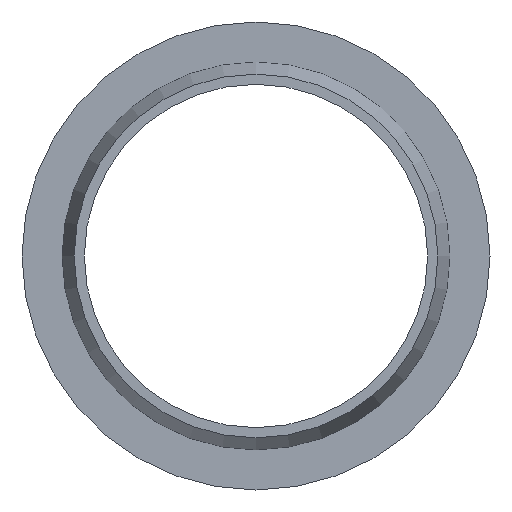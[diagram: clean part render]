
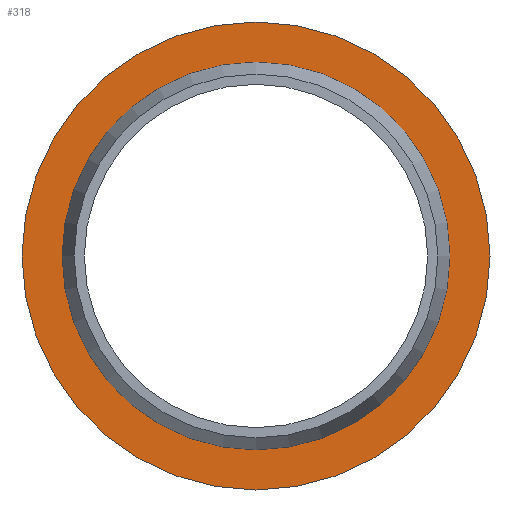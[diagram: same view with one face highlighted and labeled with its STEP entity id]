
A CAD part, left-side view. The second image highlights one B-rep face of the part: STEP entity #318.
In plain terms, the highlighted planar face has unit normal (-1, 0, 0).
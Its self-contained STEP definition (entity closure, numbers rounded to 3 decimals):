
#17 = CARTESIAN_POINT ( 'NONE',  ( 2.5, 0., -15.25 ) ) ;
#18 = AXIS2_PLACEMENT_3D ( 'NONE', #19, #23, #24 ) ;
#19 = CARTESIAN_POINT ( 'NONE',  ( 2.5, 0., 0. ) ) ;
#23 = DIRECTION ( 'NONE',  ( -1., 0., 0. ) ) ;
#24 = DIRECTION ( 'NONE',  ( 0., 0., 1. ) ) ;
#28 = CIRCLE ( 'NONE', #18, 15.25 ) ;
#62 = CARTESIAN_POINT ( 'NONE',  ( 2.5, 0., 0. ) ) ;
#63 = AXIS2_PLACEMENT_3D ( 'NONE', #62, #67, #73 ) ;
#67 = DIRECTION ( 'NONE',  ( -1., 0., 0. ) ) ;
#68 = CIRCLE ( 'NONE', #63, 18.4 ) ;
#73 = DIRECTION ( 'NONE',  ( 0., 0., 1. ) ) ;
#111 = CARTESIAN_POINT ( 'NONE',  ( 2.5, 0., 15.25 ) ) ;
#125 = CARTESIAN_POINT ( 'NONE',  ( 2.5, 0., -18.4 ) ) ;
#187 = CARTESIAN_POINT ( 'NONE',  ( 2.5, 0., 18.4 ) ) ;
#192 = AXIS2_PLACEMENT_3D ( 'NONE', #210, #215, #212 ) ;
#194 = CIRCLE ( 'NONE', #192, 18.4 ) ;
#210 = CARTESIAN_POINT ( 'NONE',  ( 2.5, 0., 0. ) ) ;
#212 = DIRECTION ( 'NONE',  ( 0., 0., 1. ) ) ;
#215 = DIRECTION ( 'NONE',  ( -1., 0., 0. ) ) ;
#282 = ORIENTED_EDGE ( 'NONE', *, *, #350, .T. ) ;
#285 = EDGE_CURVE ( 'NONE', #407, #415, #470, .T. ) ;
#299 = ORIENTED_EDGE ( 'NONE', *, *, #426, .T. ) ;
#305 = EDGE_LOOP ( 'NONE', ( #330, #332 ) ) ;
#318 = ADVANCED_FACE ( 'NONE', ( #487, #486 ), #493, .F. ) ;
#330 = ORIENTED_EDGE ( 'NONE', *, *, #285, .F. ) ;
#331 = EDGE_LOOP ( 'NONE', ( #282, #299 ) ) ;
#332 = ORIENTED_EDGE ( 'NONE', *, *, #409, .F. ) ;
#345 = VERTEX_POINT ( 'NONE', #187 ) ;
#350 = EDGE_CURVE ( 'NONE', #345, #458, #194, .T. ) ;
#407 = VERTEX_POINT ( 'NONE', #17 ) ;
#409 = EDGE_CURVE ( 'NONE', #415, #407, #28, .T. ) ;
#415 = VERTEX_POINT ( 'NONE', #111 ) ;
#426 = EDGE_CURVE ( 'NONE', #458, #345, #68, .T. ) ;
#458 = VERTEX_POINT ( 'NONE', #125 ) ;
#470 = CIRCLE ( 'NONE', #480, 15.25 ) ;
#474 = AXIS2_PLACEMENT_3D ( 'NONE', #492, #491, #476 ) ;
#476 = DIRECTION ( 'NONE',  ( 0., 0., -1. ) ) ;
#478 = CARTESIAN_POINT ( 'NONE',  ( 2.5, 0., 0. ) ) ;
#479 = DIRECTION ( 'NONE',  ( -1., 0., 0. ) ) ;
#480 = AXIS2_PLACEMENT_3D ( 'NONE', #478, #479, #494 ) ;
#486 = FACE_OUTER_BOUND ( 'NONE', #331, .T. ) ;
#487 = FACE_BOUND ( 'NONE', #305, .T. ) ;
#491 = DIRECTION ( 'NONE',  ( 1., 0., 0. ) ) ;
#492 = CARTESIAN_POINT ( 'NONE',  ( 2.5, 18.4, 0. ) ) ;
#493 = PLANE ( 'NONE',  #474 ) ;
#494 = DIRECTION ( 'NONE',  ( 0., 0., 1. ) ) ;
